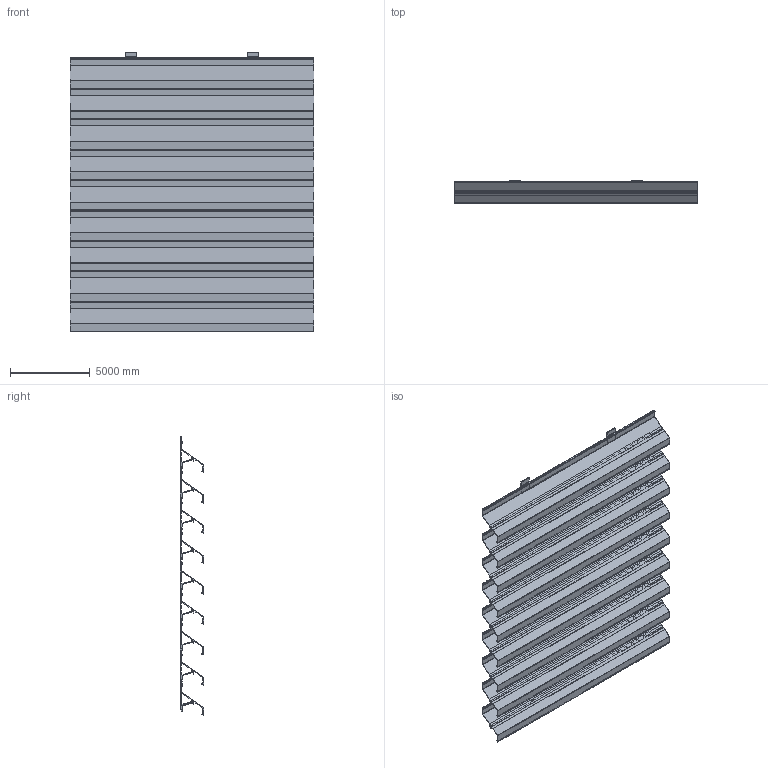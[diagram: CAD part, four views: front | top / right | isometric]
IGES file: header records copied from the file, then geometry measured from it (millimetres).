
Global section: file name: 3D_L_075HF; native system: AutoCAD 2023 - English; preprocessor: Autodesk Translation Framework DWG producer (atf_dwg_producer); organization: unknown; date: 20260202.111902; units: inch
Bounding box: 15240 x 1447.8 x 17518.28 mm (x, y, z)
Volume: 18263812229.6 mm3; surface area: 914764298 mm2
Topology: 11 solids, 11 shells, 1279 faces, 3879 edges, 2550 vertices
Faces by surface type: bspline 1279
